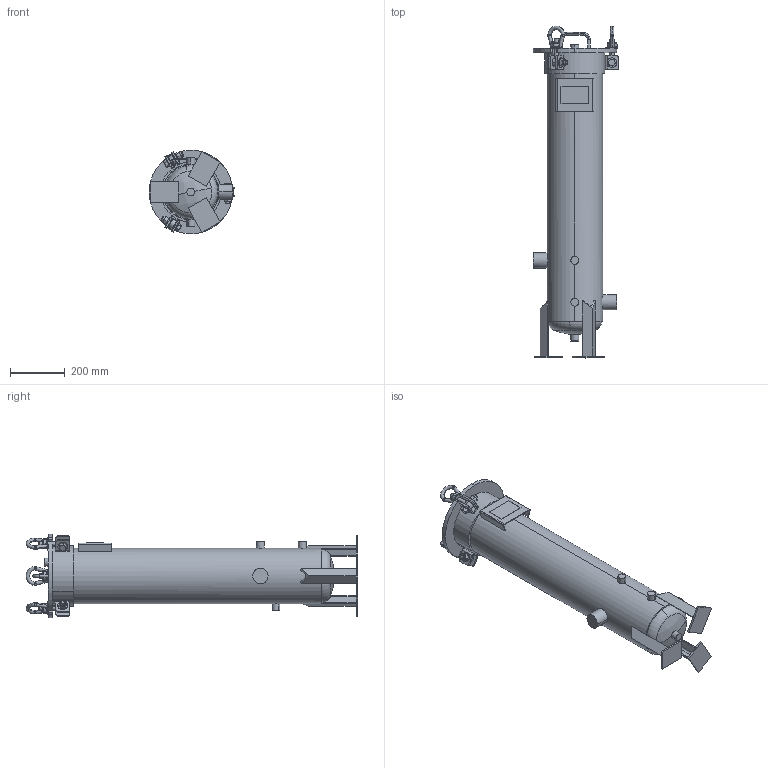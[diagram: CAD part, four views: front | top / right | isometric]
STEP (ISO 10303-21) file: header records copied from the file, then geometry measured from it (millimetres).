
FILE_DESCRIPTION (( 'STEP AP203' ), '1' );
FILE_NAME ('V8529-1.step', '2025-12-09T19:06:46', ( '' ), ( '' ), 'SwSTEP 2.0', 'SolidWorks 2023', '' );
FILE_SCHEMA (( 'CONFIG_CONTROL_DESIGN' ));
Length unit declared in the file: inch
Products named in the file (1): V8529-1
Bounding box: 312.74 x 1210.7 x 304.8 mm (x, y, z)
Volume: 35442567.7 mm3; surface area: 1192019.5 mm2
Topology: 7 solids, 7 shells, 528 faces, 1258 edges, 761 vertices
Faces by surface type: plane 199, cylinder 142, cone 75, bspline 66, torus 44, sphere 2
Entity records: 19267 total; most frequent: CARTESIAN_POINT 7448, ORIENTED_EDGE 2504, DIRECTION 2424, EDGE_CURVE 1252, AXIS2_PLACEMENT_3D 976, VERTEX_POINT 761, EDGE_LOOP 571, FACE_OUTER_BOUND 528
